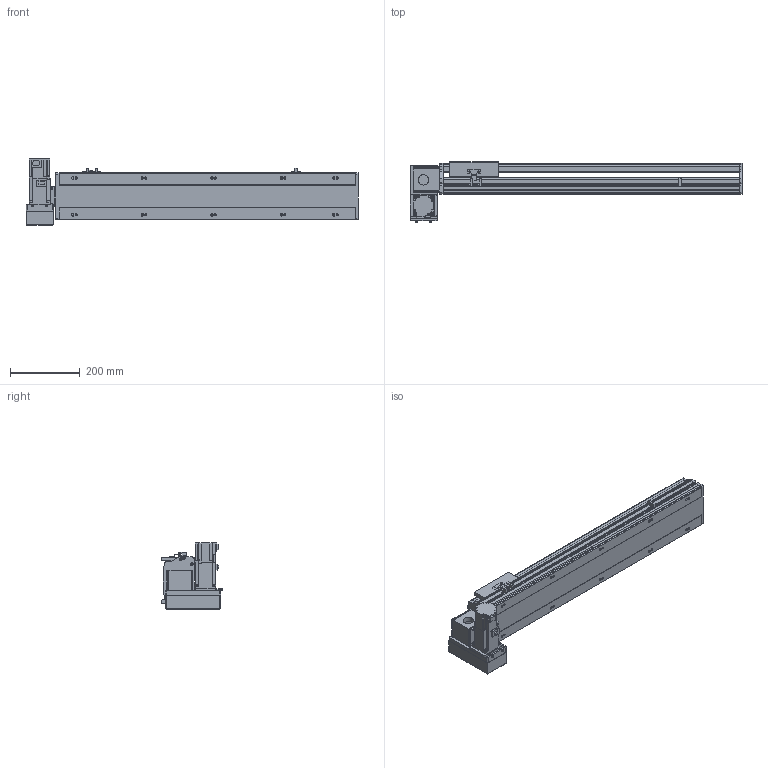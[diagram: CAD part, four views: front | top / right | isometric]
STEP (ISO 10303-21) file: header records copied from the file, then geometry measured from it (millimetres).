
FILE_DESCRIPTION( ( 'STEP AP214' ), '1' );
FILE_NAME( 'x:/temp/worker_6/temp/exporttempdir_5396_90_1ynDo/format_0/PBS140S-P40-S600-LD-T40-C1-N(0).stp', '2022-06-09T00:24:09', ( 'License CC BY-ND 4.0' ), ( 'CADENAS' ), ' ', 'PARTsolutions', ' ' );
FILE_SCHEMA( ( 'AUTOMOTIVE_DESIGN { 1 0 10303 214 1 1 1 1 }' ) );
Length unit declared in the file: millimetre
Products named in the file (7): PBS140S-P40-S600-LD-T40-C1-N(0); _PBS140S-S600()_body; _PBS140ST-LD_motors; _T40-p1; _PBS140S_sliser; _PBS140S_plant; _PBS140S_sensor
Assembly tree (8 placements, depth 2):
  PBS140S-P40-S600-LD-T40-C1-N(0)
    _PBS140S-S600()_body
    _PBS140ST-LD_motors
    _T40-p1
    _PBS140S_sliser
    _PBS140S_plant
    _PBS140S_sensor  x3
Bounding box: 954 x 172.5 x 189.7 mm (x, y, z)
Volume: 5218457.8 mm3; surface area: 920833.5 mm2
Topology: 8 solids, 8 shells, 1051 faces, 2791 edges, 1827 vertices
Faces by surface type: plane 684, cylinder 321, cone 36, sphere 8, torus 2
Full cylindrical faces by diameter (mm): 3.242 x4, 4 x2, 4.134 x4, 4.4 x8, 4.5 x2, 4.8 x4, 4.917 x18, 5.5 x7, 6 x2, 7 x12, 7.5 x8, 8 x12, 8.5 x4, 10.5 x10, 14 x1, 30 x2, 50 x2
Entity records: 38410 total; most frequent: CARTESIAN_POINT 5902, DIRECTION 5138, ORIENTED_EDGE 4882, EDGE_CURVE 2441, AXIS2_PLACEMENT_3D 1769, VERTEX_POINT 1681, LINE 1600, VECTOR 1600
